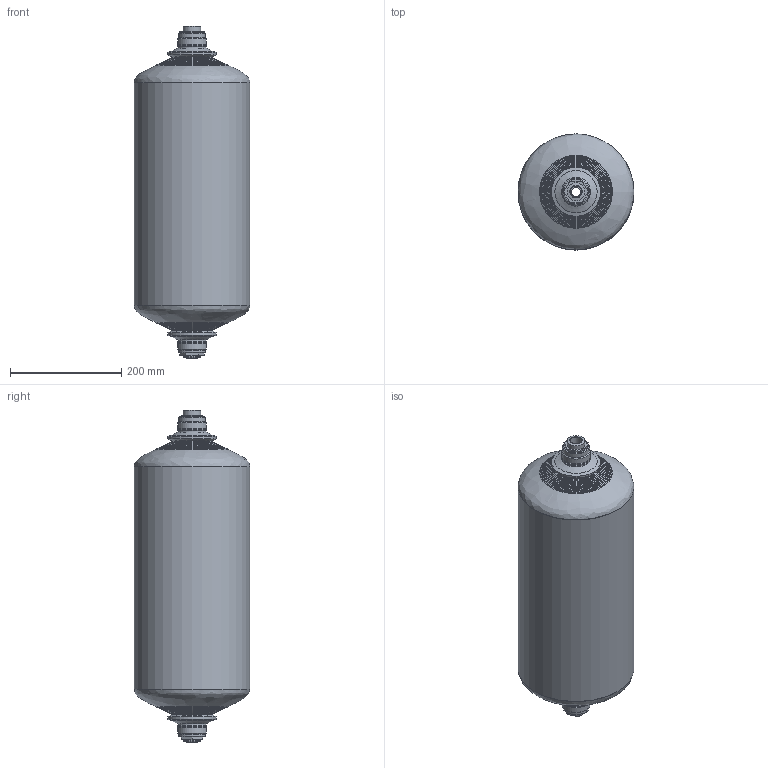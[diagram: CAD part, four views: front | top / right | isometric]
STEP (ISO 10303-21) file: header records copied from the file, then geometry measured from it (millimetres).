
FILE_DESCRIPTION(('Open CASCADE Model'),'2;1');
FILE_NAME('Open CASCADE Shape Model','2026-10-25T09:17:05',('Author'),( 'Open CASCADE'),'Open CASCADE STEP processor 7.8','Open CASCADE 7.8' ,'Unknown');
FILE_SCHEMA(('AUTOMOTIVE_DESIGN { 1 0 10303 214 1 1 1 1 }'));
Length unit declared in the file: millimetre
Products named in the file (20): Open CASCADE STEP translator 7.8 1; Open CASCADE STEP translator 7.8 1.1; Open CASCADE STEP translator 7.8 1.2; Open CASCADE STEP translator 7.8 1.3; Open CASCADE STEP translator 7.8 1.4; Open CASCADE STEP translator 7.8 1.5; Open CASCADE STEP translator 7.8 1.6; Open CASCADE STEP translator 7.8 1.7; Open CASCADE STEP translator 7.8 1.8; Open CASCADE STEP translator 7.8 1.9; Open CASCADE STEP translator 7.8 1.10; Open CASCADE STEP translator 7.8 1.11; Open CASCADE STEP translator 7.8 1.12; Open CASCADE STEP translator 7.8 1.13; Open CASCADE STEP translator 7.8 1.14; Open CASCADE STEP translator 7.8 1.15; Open CASCADE STEP translator 7.8 1.16; Open CASCADE STEP translator 7.8 1.17; Open CASCADE STEP translator 7.8 1.18; Open CASCADE STEP translator 7.8 1.19
Assembly tree (19 placements, depth 2):
  Open CASCADE STEP translator 7.8 1
    Open CASCADE STEP translator 7.8 1.1
    Open CASCADE STEP translator 7.8 1.2
    Open CASCADE STEP translator 7.8 1.3
    Open CASCADE STEP translator 7.8 1.4
    Open CASCADE STEP translator 7.8 1.5
    Open CASCADE STEP translator 7.8 1.6
    Open CASCADE STEP translator 7.8 1.7
    Open CASCADE STEP translator 7.8 1.8
    Open CASCADE STEP translator 7.8 1.9
    Open CASCADE STEP translator 7.8 1.10
    Open CASCADE STEP translator 7.8 1.11
    Open CASCADE STEP translator 7.8 1.12
    Open CASCADE STEP translator 7.8 1.13
    Open CASCADE STEP translator 7.8 1.14
    Open CASCADE STEP translator 7.8 1.15
    Open CASCADE STEP translator 7.8 1.16
    Open CASCADE STEP translator 7.8 1.17
    Open CASCADE STEP translator 7.8 1.18
    Open CASCADE STEP translator 7.8 1.19
Bounding box: 208.3 x 208.3 x 597 mm (x, y, z)
Volume: 1598410.4 mm3; surface area: 4125329.7 mm2
Topology: 18 solids, 18 shells, 303 faces, 578 edges, 3370 vertices
Faces by surface type: cone 131, plane 70, cylinder 56, revolution 26, torus 20
Full cylindrical faces by diameter (mm): 16.5 x1, 20.4 x1, 30 x2, 32 x6, 34.6 x4, 36.2 x8, 36.4 x8, 37.9 x4, 48 x2, 52 x6, 88 x2, 200 x1, 202 x2, 202.3 x2, 203.8 x2, 205.3 x2, 206.8 x2, 208.3 x1
Entity records: 33166 total; most frequent: CARTESIAN_POINT 20404, DIRECTION 2523, LINE 1283, VECTOR 1283, ORIENTED_EDGE 1156, PCURVE 1156, DEFINITIONAL_REPRESENTATION 1156, AXIS2_PLACEMENT_3D 580
